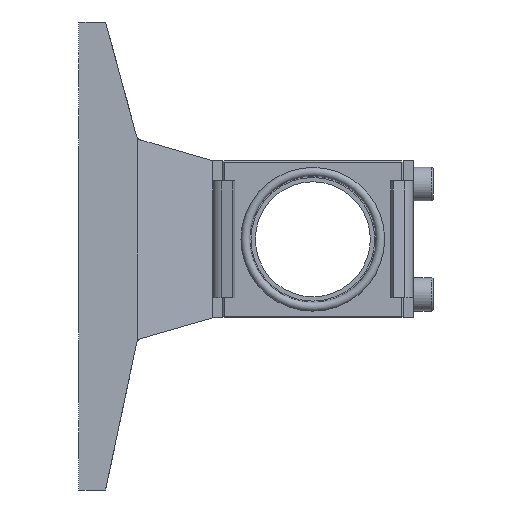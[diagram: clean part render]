
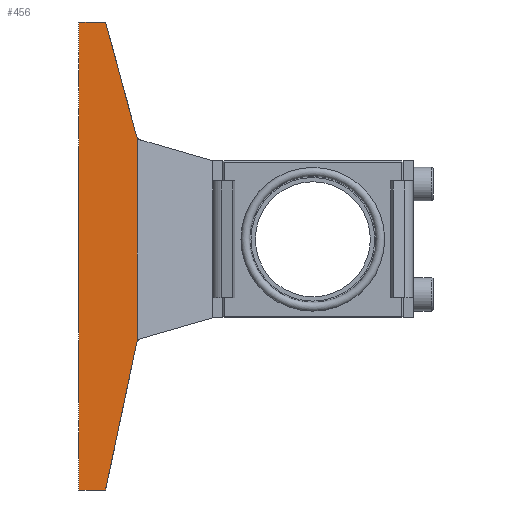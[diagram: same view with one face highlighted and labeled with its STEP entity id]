
A CAD part, left-side view. The second image highlights one B-rep face of the part: STEP entity #456.
In plain terms, the highlighted planar face has unit normal (-1, -0.026, 0).
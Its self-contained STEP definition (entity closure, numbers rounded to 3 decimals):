
#456 = ADVANCED_FACE( '', ( #1158 ), #1159, .T. );
#1158 = FACE_OUTER_BOUND( '', #2185, .T. );
#1159 = PLANE( '', #2186 );
#2185 = EDGE_LOOP( '', ( #3559, #3560, #3561, #3562, #3563, #3564, #3565, #3566 ) );
#2186 = AXIS2_PLACEMENT_3D( '', #3567, #3568, #3569 );
#3559 = ORIENTED_EDGE( '', *, *, #5754, .T. );
#3560 = ORIENTED_EDGE( '', *, *, #5755, .T. );
#3561 = ORIENTED_EDGE( '', *, *, #5756, .F. );
#3562 = ORIENTED_EDGE( '', *, *, #5757, .T. );
#3563 = ORIENTED_EDGE( '', *, *, #5607, .T. );
#3564 = ORIENTED_EDGE( '', *, *, #5758, .T. );
#3565 = ORIENTED_EDGE( '', *, *, #5759, .F. );
#3566 = ORIENTED_EDGE( '', *, *, #5554, .T. );
#3567 = CARTESIAN_POINT( '', ( 37., 70., -312. ) );
#3568 = DIRECTION( '', ( -1., -0.026, 0. ) );
#3569 = DIRECTION( '', ( -0.026, 1., 0. ) );
#5554 = EDGE_CURVE( '', #6586, #6584, #6587, .T. );
#5607 = EDGE_CURVE( '', #6673, #6674, #6675, .T. );
#5754 = EDGE_CURVE( '', #6584, #6914, #6915, .T. );
#5755 = EDGE_CURVE( '', #6914, #6916, #6917, .T. );
#5756 = EDGE_CURVE( '', #6918, #6916, #6919, .T. );
#5757 = EDGE_CURVE( '', #6918, #6673, #6920, .T. );
#5758 = EDGE_CURVE( '', #6674, #6921, #6922, .T. );
#5759 = EDGE_CURVE( '', #6586, #6921, #6923, .T. );
#6584 = VERTEX_POINT( '', #8019 );
#6586 = VERTEX_POINT( '', #8021 );
#6587 = ELLIPSE( '', #8022, 2.001, 2. );
#6673 = VERTEX_POINT( '', #8150 );
#6674 = VERTEX_POINT( '', #8151 );
#6675 = LINE( '', #8152, #8153 );
#6914 = VERTEX_POINT( '', #8499 );
#6915 = LINE( '', #8500, #8501 );
#6916 = VERTEX_POINT( '', #8502 );
#6917 = ELLIPSE( '', #8503, 2.001, 2. );
#6918 = VERTEX_POINT( '', #8504 );
#6919 = LINE( '', #8505, #8506 );
#6920 = LINE( '', #8507, #8508 );
#6921 = VERTEX_POINT( '', #8509 );
#6922 = LINE( '', #8510, #8511 );
#6923 = LINE( '', #8512, #8513 );
#8019 = CARTESIAN_POINT( '', ( 37.458, 52.5, -62.549 ) );
#8021 = CARTESIAN_POINT( '', ( 37.452, 52.748, -63.175 ) );
#8022 = AXIS2_PLACEMENT_3D( '', #9729, #9730, #9731 );
#8150 = CARTESIAN_POINT( '', ( 37., 70., 33. ) );
#8151 = CARTESIAN_POINT( '', ( 37., 70., -107. ) );
#8152 = CARTESIAN_POINT( '', ( 37., 70., 33. ) );
#8153 = VECTOR( '', #9798, 1000. );
#8499 = CARTESIAN_POINT( '', ( 37.458, 52.5, -1.542 ) );
#8500 = CARTESIAN_POINT( '', ( 37.458, 52.5, -312. ) );
#8501 = VECTOR( '', #10010, 1000. );
#8502 = CARTESIAN_POINT( '', ( 37.451, 52.795, -0.915 ) );
#8503 = AXIS2_PLACEMENT_3D( '', #10011, #10012, #10013 );
#8504 = CARTESIAN_POINT( '', ( 37.209, 62., 33. ) );
#8505 = CARTESIAN_POINT( '', ( 37.46, 52.443, -2.209 ) );
#8506 = VECTOR( '', #10014, 1000. );
#8507 = CARTESIAN_POINT( '', ( 37., 70., 33. ) );
#8508 = VECTOR( '', #10015, 1000. );
#8509 = CARTESIAN_POINT( '', ( 37.209, 62., -107. ) );
#8510 = CARTESIAN_POINT( '', ( 37., 70., -107. ) );
#8511 = VECTOR( '', #10016, 1000. );
#8512 = CARTESIAN_POINT( '', ( 37.21, 61.964, -106.832 ) );
#8513 = VECTOR( '', #10017, 1000. );
#9729 = CARTESIAN_POINT( '', ( 37.503, 50.791, -63.588 ) );
#9730 = DIRECTION( '', ( 1., 0.026, 0. ) );
#9731 = DIRECTION( '', ( 0.026, -1., 0. ) );
#9798 = DIRECTION( '', ( 0., 0., -1. ) );
#10010 = DIRECTION( '', ( 0., 0., 1. ) );
#10011 = CARTESIAN_POINT( '', ( 37.501, 50.864, -0.391 ) );
#10012 = DIRECTION( '', ( 1., 0.026, 0. ) );
#10013 = DIRECTION( '', ( -0.026, 1., 0. ) );
#10014 = DIRECTION( '', ( 0.007, -0.262, -0.965 ) );
#10015 = DIRECTION( '', ( -0.026, 1., 0. ) );
#10016 = DIRECTION( '', ( 0.026, -1., 0. ) );
#10017 = DIRECTION( '', ( -0.005, 0.207, -0.978 ) );
